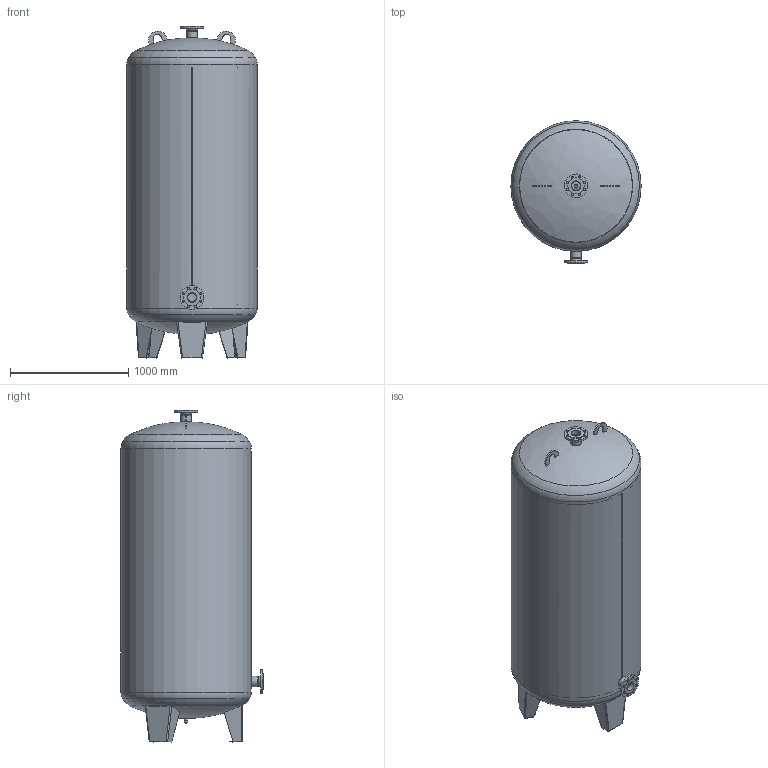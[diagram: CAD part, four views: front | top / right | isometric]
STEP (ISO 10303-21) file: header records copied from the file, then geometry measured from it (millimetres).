
FILE_DESCRIPTION((''),'2;1');
FILE_NAME('C:\Vault\Inventor\Expansion\elko-mat\EV\EV 2000\EV2000-10-110.stp','2012-06-11T14:41:30',('Walder'),(''),'Autodesk Inventor 11','Autodesk Inventor 11','');
FILE_SCHEMA(('AUTOMOTIVE_DESIGN { 1 0 10303 214 1 1 1 1 }'));
Length unit declared in the file: millimetre
Products named in the file (1): EV2000-10-110
Bounding box: 1100 x 1200 x 2803.15 mm (x, y, z)
Volume: 70643158.9 mm3; surface area: 20113236.4 mm2
Topology: 6 solids, 6 shells, 205 faces, 526 edges, 340 vertices
Faces by surface type: plane 98, cylinder 57, bspline 39, torus 6, cone 5
Full cylindrical faces by diameter (mm): 18 x16, 20.99 x1, 24.117 x1, 32 x1, 80 x1, 82.5 x2, 88.9 x2, 138 x2, 200 x2, 1080 x2, 1100 x1
Entity records: 9667 total; most frequent: CARTESIAN_POINT 5080, ORIENTED_EDGE 926, DIRECTION 817, EDGE_CURVE 463, VERTEX_POINT 332, EDGE_LOOP 320, AXIS2_PLACEMENT_3D 297, VECTOR 223
